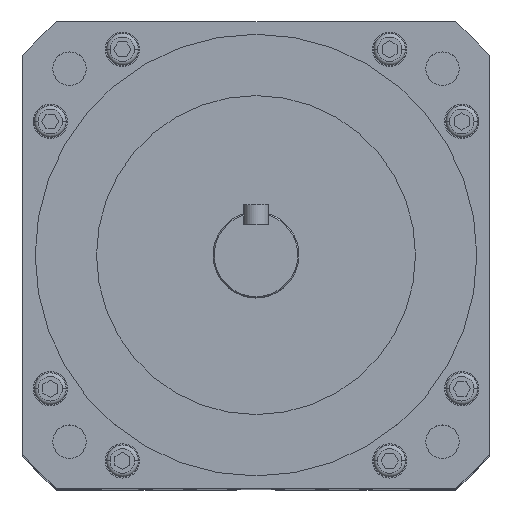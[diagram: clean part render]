
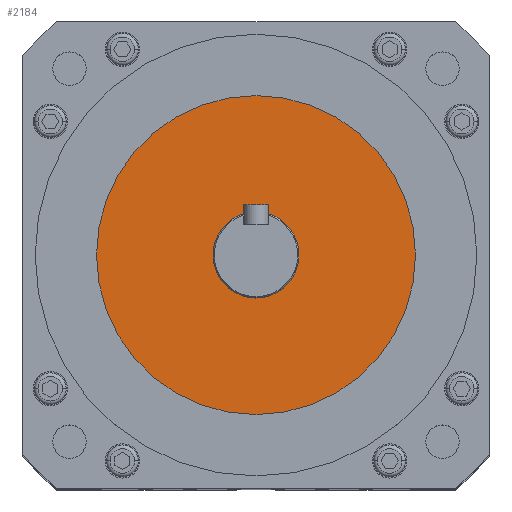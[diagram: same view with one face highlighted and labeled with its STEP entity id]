
A CAD part, top view. The second image highlights one B-rep face of the part: STEP entity #2184.
In plain terms, the highlighted planar face has unit normal (0, 0, 1).
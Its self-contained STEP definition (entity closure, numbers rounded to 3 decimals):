
#149 = DIRECTION ( 'NONE',  ( 1., 0., 0. ) ) ;
#629 = VERTEX_POINT ( 'NONE', #10166 ) ;
#655 = AXIS2_PLACEMENT_3D ( 'NONE', #14148, #8360, #12996 ) ;
#661 = ORIENTED_EDGE ( 'NONE', *, *, #14953, .T. ) ;
#1299 = CARTESIAN_POINT ( 'NONE',  ( -65., 0., 364. ) ) ;
#1453 = AXIS2_PLACEMENT_3D ( 'NONE', #10147, #1958, #10232 ) ;
#1958 = DIRECTION ( 'NONE',  ( 0., 0., 1. ) ) ;
#2184 = ADVANCED_FACE ( 'NONE', ( #7649, #5601 ), #6664, .T. ) ;
#2359 = AXIS2_PLACEMENT_3D ( 'NONE', #5682, #11481, #7967 ) ;
#2386 = DIRECTION ( 'NONE',  ( 0., 0., 1. ) ) ;
#4190 = CARTESIAN_POINT ( 'NONE',  ( 65., 0., 364. ) ) ;
#4394 = AXIS2_PLACEMENT_3D ( 'NONE', #13990, #9419, #149 ) ;
#4607 = VERTEX_POINT ( 'NONE', #9241 ) ;
#4725 = ORIENTED_EDGE ( 'NONE', *, *, #10835, .F. ) ;
#4895 = DIRECTION ( 'NONE',  ( 1., 0., 0. ) ) ;
#5601 = FACE_OUTER_BOUND ( 'NONE', #7939, .T. ) ;
#5682 = CARTESIAN_POINT ( 'NONE',  ( 0., 0., 364. ) ) ;
#6664 = PLANE ( 'NONE',  #1453 ) ;
#6721 = EDGE_CURVE ( 'NONE', #4607, #629, #7217, .T. ) ;
#6724 = ORIENTED_EDGE ( 'NONE', *, *, #6721, .F. ) ;
#7217 = CIRCLE ( 'NONE', #655, 17.5 ) ;
#7649 = FACE_BOUND ( 'NONE', #12174, .T. ) ;
#7939 = EDGE_LOOP ( 'NONE', ( #11802, #661 ) ) ;
#7967 = DIRECTION ( 'NONE',  ( 1., 0., 0. ) ) ;
#8214 = CIRCLE ( 'NONE', #11377, 65. ) ;
#8360 = DIRECTION ( 'NONE',  ( 0., 0., 1. ) ) ;
#9148 = CIRCLE ( 'NONE', #2359, 17.5 ) ;
#9241 = CARTESIAN_POINT ( 'NONE',  ( 17.5, 0., 364. ) ) ;
#9419 = DIRECTION ( 'NONE',  ( 0., 0., 1. ) ) ;
#9523 = VERTEX_POINT ( 'NONE', #4190 ) ;
#9581 = CARTESIAN_POINT ( 'NONE',  ( 0., 0., 364. ) ) ;
#10147 = CARTESIAN_POINT ( 'NONE',  ( 0., 0., 364. ) ) ;
#10166 = CARTESIAN_POINT ( 'NONE',  ( -17.5, 0., 364. ) ) ;
#10232 = DIRECTION ( 'NONE',  ( 1., 0., 0. ) ) ;
#10835 = EDGE_CURVE ( 'NONE', #629, #4607, #9148, .T. ) ;
#11377 = AXIS2_PLACEMENT_3D ( 'NONE', #9581, #2386, #4895 ) ;
#11481 = DIRECTION ( 'NONE',  ( 0., 0., 1. ) ) ;
#11802 = ORIENTED_EDGE ( 'NONE', *, *, #13363, .T. ) ;
#12174 = EDGE_LOOP ( 'NONE', ( #4725, #6724 ) ) ;
#12470 = VERTEX_POINT ( 'NONE', #1299 ) ;
#12642 = CIRCLE ( 'NONE', #4394, 65. ) ;
#12996 = DIRECTION ( 'NONE',  ( 1., 0., 0. ) ) ;
#13363 = EDGE_CURVE ( 'NONE', #9523, #12470, #8214, .T. ) ;
#13990 = CARTESIAN_POINT ( 'NONE',  ( 0., 0., 364. ) ) ;
#14148 = CARTESIAN_POINT ( 'NONE',  ( 0., 0., 364. ) ) ;
#14953 = EDGE_CURVE ( 'NONE', #12470, #9523, #12642, .T. ) ;
